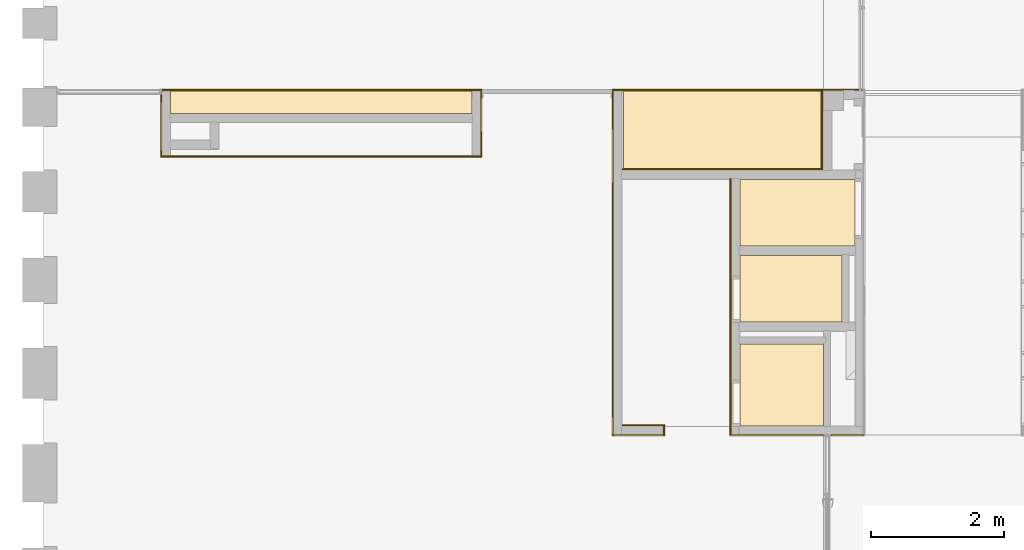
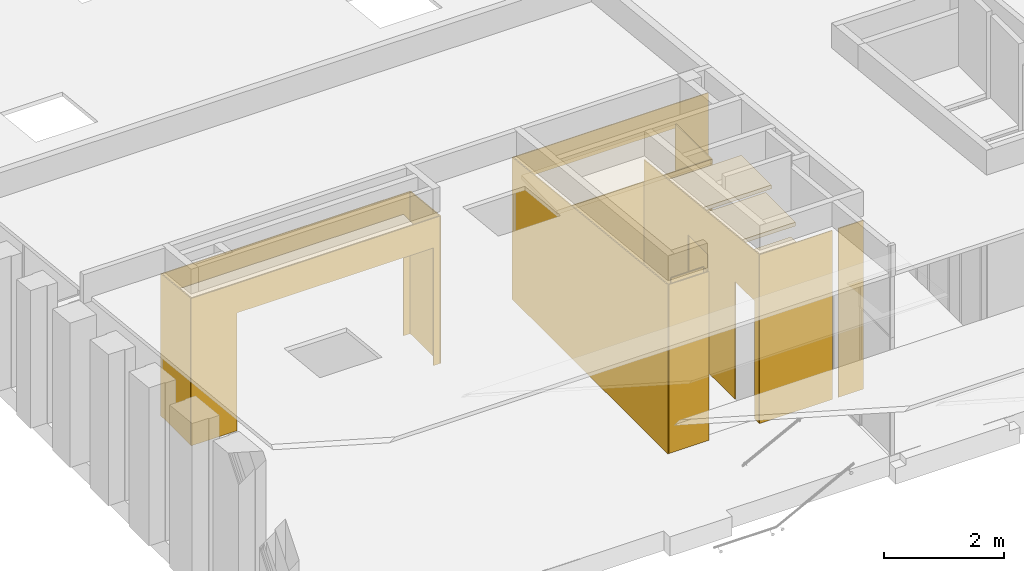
# One storey, part 34 of 43: 19 coverings, 5 openings.
"""IFC2X3 building model written with IfcOpenShell, lengths in millimetres."""

from ifc_helpers import new_model, entity, si_unit, converted_unit, derived_unit, money_unit, direction, frame, origin_with_axes, place, context, subcontext, project, spatial, faceted_brep, material, material_list, type_object, element, save


model = new_model("IFC2X3")

# Units and contexts
model_context = context("Model", 3, precision=0.01, world=origin_with_axes(), true_north=direction((0.0, 1.0)))
body_context = subcontext(model_context, "Body", "Model", "MODEL_VIEW")
ifc_project = project(units=[si_unit("LENGTHUNIT", "METRE", prefix="MILLI"), si_unit("AREAUNIT", "SQUARE_METRE"), si_unit("VOLUMEUNIT", "CUBIC_METRE"), converted_unit("PLANEANGLEUNIT", "DEGREE", entity("IfcPlaneAngleMeasure", 0.0174532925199), si_unit("PLANEANGLEUNIT", "RADIAN"), dimensions=[0, 0, 0, 0, 0, 0, 0]), si_unit("SOLIDANGLEUNIT", "STERADIAN"), money_unit("EUR"), converted_unit("TIMEUNIT", "Year", entity("IfcTimeMeasure", 31556926.0), si_unit("TIMEUNIT", "SECOND"), dimensions=[0, 0, 1, 0, 0, 0, 0]), si_unit("MASSUNIT", "GRAM", prefix="KILO"), si_unit("THERMODYNAMICTEMPERATUREUNIT", "DEGREE_CELSIUS"), si_unit("LUMINOUSINTENSITYUNIT", "LUMEN"), si_unit("ENERGYUNIT", "JOULE", prefix="MEGA"), derived_unit("THERMALCONDUCTANCEUNIT", [(si_unit("POWERUNIT", "WATT"), 1), (si_unit("LENGTHUNIT", "METRE"), -1), (si_unit("THERMODYNAMICTEMPERATUREUNIT", "KELVIN"), -1)]), derived_unit("SPECIFICHEATCAPACITYUNIT", [(si_unit("ENERGYUNIT", "JOULE"), 1), (si_unit("MASSUNIT", "GRAM", prefix="KILO"), -1), (si_unit("THERMODYNAMICTEMPERATUREUNIT", "KELVIN"), -1)]), derived_unit("MASSDENSITYUNIT", [(si_unit("MASSUNIT", "GRAM", prefix="KILO"), 1), (si_unit("VOLUMEUNIT", "CUBIC_METRE"), -1)])], contexts=[model_context])

# Site, building, storey
site_placement = place(None, origin_with_axes())
site = spatial("IfcSite", under=ifc_project, at=site_placement, Name="L.Koidula tn 11b", CompositionType="ELEMENT")
building_placement = place(site_placement, origin_with_axes())
building = spatial("IfcBuilding", under=site, at=building_placement, Name="Rakvere Riigigümnaasium", CompositionType="ELEMENT")
storey_placement = place(building_placement, frame((0.0, 0.0, 6665.0), z_axis=(0.0, 0.0, 1.0), x_axis=(1.0, 0.0, 0.0)))
storey = spatial("IfcBuildingStorey", under=building, at=storey_placement, Name="3.korrus +6,66", CompositionType="ELEMENT", Elevation=6665.0)

# Coverings
ifc_material_1 = material(Name="mineraalvill+karkass")
ifc_material_2 = material(Name="SKR-02_Kipsplaat")
ifc_material_list = material_list([ifc_material_1, ifc_material_2])
covering_type_1 = type_object("IfcCoveringType", Name="SA-LV-kips 79", PredefinedType="CEILING")
covering_1_placement = place(storey_placement, frame((37204.9860125, 24060.4555472, 2400.0), z_axis=(0.0, 0.0, 1.0), x_axis=(1.0, 0.0, 0.0)))
element("IfcCovering", 1, at=covering_1_placement, inside=storey, type_object=covering_type_1, material=ifc_material_list, Name="L-01", PredefinedType="CEILING", context=body_context, shape_type="Brep", body=[
    faceted_brep([(4520.01747682, 0.0, 12.5), (4520.01747682, 0.0, 78.5), (0.0, 0.0, 78.5), (0.0, 0.0, 12.5), (4520.01747682, 340.000000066, 12.5), (4520.01747682, 340.000000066, 78.5), (0.0, 340.000000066, 78.5), (0.0, 340.000000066, 12.5)], [[[0, 1, 2, 3]], [[4, 5, 1, 0]], [[2, 1, 5, 6]], [[3, 2, 6, 7]], [[3, 7, 4, 0]], [[7, 6, 5, 4]]]),
    faceted_brep([(0.0, 0.0, 0.0), (4520.01747682, 0.0, 0.0), (4520.01747682, 0.0, 12.5), (0.0, 0.0, 12.5), (0.0, 340.000000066, 0.0), (4520.01747682, 340.000000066, 0.0), (4520.01747682, 340.000000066, 12.5), (0.0, 340.000000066, 12.5)], [[[0, 1, 2, 3]], [[0, 4, 5, 1]], [[1, 5, 6, 2]], [[3, 2, 6, 7]], [[4, 0, 3, 7]], [[5, 4, 7, 6]]]),
])
covering_2_placement = place(storey_placement, frame((45745.0034893, 23070.4555472, 2400.0), z_axis=(0.0, 0.0, 1.0), x_axis=(1.0, 0.0, 0.0)))
element("IfcCovering", 2, at=covering_2_placement, inside=storey, type_object=covering_type_1, material=ifc_material_list, Name="L-04", PredefinedType="CEILING", context=body_context, shape_type="Brep", body=[
    faceted_brep([(0.0, -1000.00000742, 12.5), (0.0, -1000.00000742, 78.5), (0.0, 0.0, 78.5), (0.0, 0.0, 12.5), (1724.99650622, -1000.00000742, 12.5), (1724.99650622, -1000.00000742, 78.5), (1724.99650622, 0.0, 78.5), (1724.99650622, 0.0, 12.5)], [[[0, 1, 2, 3]], [[4, 5, 1, 0]], [[2, 1, 5, 6]], [[3, 2, 6, 7]], [[3, 7, 4, 0]], [[7, 6, 5, 4]]]),
    faceted_brep([(0.0, 0.0, 0.0), (0.0, -1000.00000742, 0.0), (0.0, -1000.00000742, 12.5), (0.0, 0.0, 12.5), (1724.99650622, 0.0, 0.0), (1724.99650622, -1000.00000742, 0.0), (1724.99650622, -1000.00000742, 12.5), (1724.99650622, 0.0, 12.5)], [[[0, 1, 2, 3]], [[0, 4, 5, 1]], [[1, 5, 6, 2]], [[3, 2, 6, 7]], [[4, 0, 3, 7]], [[5, 4, 7, 6]]]),
])
covering_3_placement = place(storey_placement, frame((45745.0034893, 21930.4555398, 2400.0), z_axis=(0.0, 0.0, 1.0), x_axis=(1.0, 0.0, 0.0)))
element("IfcCovering", 3, at=covering_3_placement, inside=storey, type_object=covering_type_1, material=ifc_material_list, Name="L-04", PredefinedType="CEILING", context=body_context, shape_type="Brep", body=[
    faceted_brep([(0.0, -1000.01583255, 12.5), (0.0, -1000.01583255, 78.5), (0.0, 0.0, 78.5), (0.0, 0.0, 12.5), (1534.49650622, -1000.01583255, 12.5), (1534.49650622, -1000.01583255, 78.5), (1534.49650622, 0.0, 78.5), (1534.49650622, 0.0, 12.5)], [[[0, 1, 2, 3]], [[4, 5, 1, 0]], [[2, 1, 5, 6]], [[3, 2, 6, 7]], [[3, 7, 4, 0]], [[7, 6, 5, 4]]]),
    faceted_brep([(0.0, 0.0, 0.0), (0.0, -1000.01583255, 0.0), (0.0, -1000.01583255, 12.5), (0.0, 0.0, 12.5), (1534.49650622, 0.0, 0.0), (1534.49650622, -1000.01583255, 0.0), (1534.49650622, -1000.01583255, 12.5), (1534.49650622, 0.0, 12.5)], [[[0, 1, 2, 3]], [[0, 4, 5, 1]], [[1, 5, 6, 2]], [[3, 2, 6, 7]], [[4, 0, 3, 7]], [[5, 4, 7, 6]]]),
])
covering_4_placement = place(storey_placement, frame((47000.0013931, 19370.4397072, 2400.0), z_axis=(0.0, 0.0, 1.0), x_axis=(1.0, 0.0, 0.0)))
element("IfcCovering", 4, at=covering_4_placement, inside=storey, type_object=covering_type_1, material=ifc_material_list, Name="L-04", PredefinedType="CEILING", context=body_context, shape_type="Brep", body=[
    faceted_brep([(0.0, 1229.5, 12.5), (0.0, 1229.5, 78.5), (0.0, 0.0, 78.5), (0.0, 0.0, 12.5), (-1254.99790379, 1229.5, 12.5), (-1254.99790379, 1229.5, 78.5), (-1254.99790379, 0.0, 78.5), (-1254.99790379, 0.0, 12.5)], [[[0, 1, 2, 3]], [[4, 5, 1, 0]], [[2, 1, 5, 6]], [[3, 2, 6, 7]], [[3, 7, 4, 0]], [[7, 6, 5, 4]]]),
    faceted_brep([(0.0, 0.0, 0.0), (0.0, 1229.5, 0.0), (0.0, 1229.5, 12.5), (0.0, 0.0, 12.5), (-1254.99790379, 0.0, 0.0), (-1254.99790379, 1229.5, 0.0), (-1254.99790379, 1229.5, 12.5), (-1254.99790379, 0.0, 12.5)], [[[0, 1, 2, 3]], [[0, 4, 5, 1]], [[1, 5, 6, 2]], [[3, 2, 6, 7]], [[4, 0, 3, 7]], [[5, 4, 7, 6]]]),
])

# Covering, opening
ifc_material_3 = material(Name="MDF")
covering_type_2 = type_object("IfcCoveringType", Name="MDF 20", PredefinedType="CLADDING")
covering_5_placement = place(storey_placement, frame((43849.9999965, 24400.4555472, 0.0), z_axis=(0.0, 0.0, 1.0), x_axis=(1.0, 0.0, 0.0)))
covering_5 = element("IfcCovering", 5, at=covering_5_placement, inside=storey, type_object=covering_type_2, material=ifc_material_3, Name="S-05", PredefinedType="CLADDING", context=body_context, shape_type="Brep", body=[
    faceted_brep([(0.0, 20.0, 2895.5567172), (3749.99999907, 20.0, 2895.49979387), (3749.99999907, 20.0, 0.0), (3120.00139664, 20.0, 0.0), (3120.00139664, 20.0, 2400.0), (130.0, 20.0, 2400.0), (130.0, 20.0, 0.0), (0.0, 20.0, 0.0), (3749.9988141, 9.87085968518e-08, 2897.60187856), (-0.00334889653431, -1.94305016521e-07, 2897.65880196), (3749.99999907, 0.0, 0.0), (3120.00139664, 0.0, 0.0), (3120.00139664, 0.0, 2400.0), (130.0, 0.0, 2400.0), (130.0, 0.0, 0.0), (0.0, 0.0, 0.0)], [[[0, 1, 2, 3, 4, 5, 6, 7]], [[8, 1, 0, 9]], [[1, 8, 10, 2]], [[10, 11, 3, 2]], [[12, 4, 3, 11]], [[13, 5, 4, 12]], [[14, 6, 5, 13]], [[7, 6, 14, 15]], [[9, 0, 7, 15]], [[8, 9, 15, 14, 13, 12, 11, 10]]]),
])
opening_1_placement = place(covering_5_placement, frame((1625.00069832, 0.0, 0.0), z_axis=(0.0, 0.0, 1.0), x_axis=(1.0, 0.0, 0.0)))
element("IfcOpeningElement", 6, at=opening_1_placement, cuts=covering_5, Name="ava", context=body_context, shape_type="Brep", body=[
    faceted_brep([(-1495.00069832, -20.0, 0.0), (-1495.00069832, -20.0, 2400.0), (-1495.00069832, 40.0, 2400.0), (-1495.00069832, 40.0, 0.0), (1495.00069832, -20.0, 0.0), (1495.00069832, -20.0, 2400.0), (1495.00069832, 40.0, 2400.0), (1495.00069832, 40.0, 0.0)], [[[0, 1, 2, 3]], [[0, 4, 5, 1]], [[1, 5, 6, 2]], [[3, 2, 6, 7]], [[4, 0, 3, 7]], [[5, 4, 7, 6]]]),
])

covering_6_placement = place(storey_placement, frame((41855.0034893, 23420.4555472, 0.0), z_axis=(0.0, 0.0, 1.0), x_axis=(-1.0, 0.0, 0.0)))
covering_6 = element("IfcCovering", 7, at=covering_6_placement, inside=storey, type_object=covering_type_2, material=ifc_material_3, Name="S-05", PredefinedType="CLADDING", context=body_context, shape_type="Brep", body=[
    faceted_brep([(4800.01747682, 0.0, 3000.76409667), (0.0, 0.0, 3000.69123454), (0.0, 0.0, 0.0), (130.0, 0.0, 0.0), (130.0, 0.0, 2400.0), (3920.01747682, 0.0, 2400.0), (3920.01747682, 0.0, 0.0), (4800.01747682, 0.0, 0.0), (0.0, 20.0, 3002.79331922), (4800.01747682, 20.0, 3002.86618136), (0.0, 20.0, 0.0), (130.0, 20.0, 0.0), (130.0, 20.0, 2400.0), (3920.01747682, 20.0, 2400.0), (3920.01747682, 20.0, 0.0), (4800.01747682, 20.0, 0.0)], [[[0, 1, 2, 3, 4, 5, 6, 7]], [[8, 1, 0, 9]], [[1, 8, 10, 2]], [[10, 11, 3, 2]], [[12, 4, 3, 11]], [[13, 5, 4, 12]], [[14, 6, 5, 13]], [[7, 6, 14, 15]], [[9, 0, 7, 15]], [[8, 9, 15, 14, 13, 12, 11, 10]]]),
])
opening_2_placement = place(covering_6_placement, frame((2025.00873841, 0.0, 0.0), z_axis=(0.0, 0.0, 1.0), x_axis=(1.0, 0.0, 0.0)))
element("IfcOpeningElement", 8, at=opening_2_placement, cuts=covering_6, Name="ava", context=body_context, shape_type="Brep", body=[
    faceted_brep([(-1895.00873841, -20.0, 0.0), (-1895.00873841, -20.0, 2400.0), (-1895.00873841, 40.0, 2400.0), (-1895.00873841, 40.0, 0.0), (1895.00873841, -20.0, 0.0), (1895.00873841, -20.0, 2400.0), (1895.00873841, 40.0, 2400.0), (1895.00873841, 40.0, 0.0)], [[[0, 1, 2, 3]], [[0, 4, 5, 1]], [[1, 5, 6, 2]], [[3, 2, 6, 7]], [[4, 0, 3, 7]], [[5, 4, 7, 6]]]),
])

covering_7_placement = place(storey_placement, frame((37074.9860125, 24400.4555472, 0.0), z_axis=(0.0, 0.0, 1.0), x_axis=(1.0, 0.0, 0.0)))
covering_7 = element("IfcCovering", 9, at=covering_7_placement, inside=storey, type_object=covering_type_2, material=ifc_material_3, Name="S-05", PredefinedType="CLADDING", context=body_context, shape_type="Brep", body=[
    faceted_brep([(0.0, 20.0, 2895.65955891), (4780.01747682, 20.0, 2895.58700036), (4780.01747682, 20.0, 0.0), (4650.01747682, 20.0, 0.0), (4650.01747682, 20.0, 2400.0), (130.0, 20.0, 2400.0), (130.0, 20.0, 0.0), (0.0, 20.0, 0.0), (4780.01747682, 0.0, 2897.68908505), (0.0, 0.0, 2897.76164359), (4780.01747682, 0.0, 0.0), (4650.01747682, 0.0, 0.0), (4650.01747682, 0.0, 2400.0), (130.0, 0.0, 2400.0), (130.0, 0.0, 0.0), (0.0, 0.0, 0.0)], [[[0, 1, 2, 3, 4, 5, 6, 7]], [[8, 1, 0, 9]], [[1, 8, 10, 2]], [[10, 11, 3, 2]], [[12, 4, 3, 11]], [[13, 5, 4, 12]], [[14, 6, 5, 13]], [[7, 6, 14, 15]], [[9, 0, 7, 15]], [[8, 9, 15, 14, 13, 12, 11, 10]]]),
])
opening_3_placement = place(covering_7_placement, frame((2390.00873841, 0.0, 0.0), z_axis=(0.0, 0.0, 1.0), x_axis=(1.0, 0.0, 0.0)))
element("IfcOpeningElement", 10, at=opening_3_placement, cuts=covering_7, Name="ava", context=body_context, shape_type="Brep", body=[
    faceted_brep([(2260.00873841, 40.0, 0.0), (2260.00873841, 40.0, 2400.0), (2260.00873841, -20.0, 2400.0), (2260.00873841, -20.0, 0.0), (-2260.00873841, 40.0, 0.0), (-2260.00873841, 40.0, 2400.0), (-2260.00873841, -20.0, 2400.0), (-2260.00873841, -20.0, 0.0)], [[[0, 1, 2, 3]], [[0, 4, 5, 1]], [[1, 5, 6, 2]], [[3, 2, 6, 7]], [[4, 0, 3, 7]], [[5, 4, 7, 6]]]),
])

# Covering, openings
covering_8_placement = place(storey_placement, frame((45615.0034893, 19240.4397072, 0.0), z_axis=(0.0, 0.0, 1.0), x_axis=(0.0, 1.0, 0.0)))
covering_8 = element("IfcCovering", 11, at=covering_8_placement, inside=storey, type_object=covering_type_2, material=ifc_material_3, Name="S-05", PredefinedType="CLADDING", context=body_context, shape_type="Brep", body=[
    faceted_brep([(3840.01583947, 20.0, 3036.36990266), (3840.01583928, 0.00118550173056, 3036.36959911), (3840.01583998, 0.0, 0.0), (3840.01583998, 20.0, 0.0), (2.37257324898e-07, 0.00118480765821, 3439.97152307), (0.0, 20.0, 3439.97182667), (0.0, 0.0, 0.0), (140.000007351, 0.0, 0.0), (140.000007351, 0.0, 2400.0), (800.000007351, 0.0, 2400.0), (800.000007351, 0.0, 0.0), (1700.00000735, 0.0, 0.0), (1700.00000735, 0.0, 2400.0), (2360.00000735, 0.0, 2400.0), (2360.00000735, 0.0, 0.0), (2360.00000735, 20.0, 0.0), (2360.00000735, 20.0, 2400.0), (1700.00000735, 20.0, 2400.0), (1700.00000735, 20.0, 0.0), (800.000007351, 20.0, 0.0), (800.000007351, 20.0, 2400.0), (140.000007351, 20.0, 2400.0), (140.000007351, 20.0, 0.0), (0.0, 20.0, 0.0)], [[[0, 1, 2, 3]], [[4, 1, 0, 5]], [[1, 4, 6, 7, 8, 9, 10, 11, 12, 13, 14, 2]], [[2, 14, 15, 3]], [[5, 0, 3, 15, 16, 17, 18, 19, 20, 21, 22, 23]], [[4, 5, 23, 6]], [[22, 7, 6, 23]], [[8, 7, 22, 21]], [[9, 8, 21, 20]], [[10, 9, 20, 19]], [[19, 18, 11, 10]], [[17, 12, 11, 18]], [[16, 13, 12, 17]], [[15, 14, 13, 16]]]),
])
opening_4_placement = place(covering_8_placement, frame((470.000007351, 0.0, 0.0), z_axis=(0.0, 0.0, 1.0), x_axis=(1.0, 0.0, 0.0)))
element("IfcOpeningElement", 12, at=opening_4_placement, cuts=covering_8, Name="ava", context=body_context, shape_type="Brep", body=[
    faceted_brep([(-330.0, -20.0, 0.0), (-330.0, -20.0, 2400.0), (-330.0, 40.0, 2400.0), (-330.0, 40.0, 0.0), (330.0, -20.0, 0.0), (330.0, -20.0, 2400.0), (330.0, 40.0, 2400.0), (330.0, 40.0, 0.0)], [[[0, 1, 2, 3]], [[0, 4, 5, 1]], [[1, 5, 6, 2]], [[3, 2, 6, 7]], [[4, 0, 3, 7]], [[5, 4, 7, 6]]]),
])
opening_5_placement = place(covering_8_placement, frame((2030.00000735, 0.0, 0.0), z_axis=(0.0, 0.0, 1.0), x_axis=(1.0, 0.0, 0.0)))
element("IfcOpeningElement", 13, at=opening_5_placement, cuts=covering_8, Name="ava", context=body_context, shape_type="Brep", body=[
    faceted_brep([(-330.0, -20.0, 0.0), (-330.0, -20.0, 2400.0), (-330.0, 40.0, 2400.0), (-330.0, 40.0, 0.0), (330.0, -20.0, 0.0), (330.0, -20.0, 2400.0), (330.0, 40.0, 2400.0), (330.0, 40.0, 0.0)], [[[0, 1, 2, 3]], [[0, 4, 5, 1]], [[1, 5, 6, 2]], [[3, 2, 6, 7]], [[4, 0, 3, 7]], [[5, 4, 7, 6]]]),
])

# Coverings
covering_9_placement = place(storey_placement, frame((43849.9999965, 19240.4397072, 0.0), z_axis=(0.0, 0.0, 1.0), x_axis=(0.0, 1.0, 0.0)))
element("IfcCovering", 14, at=covering_9_placement, inside=storey, type_object=covering_type_2, material=ifc_material_3, Name="S-05", PredefinedType="CLADDING", context=body_context, shape_type="Brep", body=[
    faceted_brep([(5180.01583998, 20.0, 2895.55702079), (5180.01583998, 0.0, 2895.5567172), (5180.01583998, 0.0, 0.0), (5180.01583998, 20.0, 0.0), (5160.01583978, 0.00334889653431, 2897.65880196), (-17.0260834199, 20.0, 3441.7881321), (-17.0289718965, 0.0, 3441.7881321), (-1.01195496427e-07, 0.00118479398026, 3439.99831508), (-20.0, 0.0, 3441.7881321), (-20.0, 0.0, 0.0), (-20.0, 20.0, 0.0), (-20.0, 20.0, 3441.7881321)], [[[0, 1, 2, 3]], [[4, 1, 0, 5, 6, 7]], [[7, 6, 8, 9, 2, 1, 4]], [[2, 9, 10, 3]], [[5, 0, 3, 10, 11]], [[6, 5, 11, 8]], [[8, 11, 10, 9]]]),
])
covering_10_placement = place(storey_placement, frame((44599.9999911, 19240.4397072, 0.0), z_axis=(0.0, 0.0, 1.0), x_axis=(-1.0, 0.0, 0.0)))
element("IfcCovering", 15, at=covering_10_placement, inside=storey, type_object=covering_type_2, material=ifc_material_3, Name="S-05", PredefinedType="CLADDING", context=body_context, shape_type="Brep", body=[
    faceted_brep([(750.00117944, 1.01195496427e-07, 3439.99831508), (0.00118468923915, 1.67332814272e-07, 3439.98693042), (-20.0, 0.0, 3439.98662679), (-20.0, 0.0, 0.0), (749.999994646, 0.0, 0.0), (-20.0, 17.1401782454, 3441.7881321), (749.999994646, 17.0289718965, 3441.7881321), (-20.0, 20.0, 3441.7881321), (-20.0, 20.0, 0.0), (749.999994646, 20.0, 0.0), (749.999994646, 20.0, 3441.7881321)], [[[0, 1, 2, 3, 4]], [[5, 2, 1, 0, 6]], [[2, 5, 7, 8, 3]], [[8, 9, 4, 3]], [[6, 0, 4, 9, 10]], [[5, 6, 10, 7]], [[7, 10, 9, 8]]]),
])
covering_11_placement = place(storey_placement, frame((41855.0034893, 24400.4555472, 0.0), z_axis=(0.0, 0.0, 1.0), x_axis=(0.0, -1.0, 0.0)))
element("IfcCovering", 16, at=covering_11_placement, inside=storey, type_object=covering_type_2, material=ifc_material_3, Name="S-05", PredefinedType="CLADDING", context=body_context, shape_type="Brep", body=[
    faceted_brep([(-20.0, 0.0, 2895.58700036), (-20.0, 20.0, 2895.58669677), (-20.0, 20.0, 0.0), (-20.0, 0.0, 0.0), (1000.00000007, 20.0, 3002.79301563), (1000.00000007, 0.0, 3002.79331922), (1000.00000007, 20.0, 0.0), (1000.00000007, 0.0, 0.0)], [[[0, 1, 2, 3]], [[4, 1, 0, 5]], [[1, 4, 6, 2]], [[2, 6, 7, 3]], [[5, 0, 3, 7]], [[4, 5, 7, 6]]]),
])
covering_12_placement = place(storey_placement, frame((37074.9860125, 23420.4555472, 0.0), z_axis=(0.0, 0.0, 1.0), x_axis=(0.0, 1.0, 0.0)))
element("IfcCovering", 17, at=covering_12_placement, inside=storey, type_object=covering_type_2, material=ifc_material_3, Name="S-05", PredefinedType="CLADDING", context=body_context, shape_type="Brep", body=[
    faceted_brep([(1000.00000007, 20.0, 2895.6598625), (1000.00000007, 0.0, 2895.65955891), (1000.00000007, 0.0, 0.0), (1000.00000007, 20.0, 0.0), (0.0, 0.0, 3000.76379308), (0.0, 20.0, 3000.76409667), (0.0, 0.0, 0.0), (0.0, 20.0, 0.0)], [[[0, 1, 2, 3]], [[4, 1, 0, 5]], [[1, 4, 6, 2]], [[7, 3, 2, 6]], [[5, 0, 3, 7]], [[4, 5, 7, 6]]]),
])
covering_13_placement = place(storey_placement, frame((46990.0013931, 24400.4555472, 0.0), z_axis=(0.0, 0.0, 1.0), x_axis=(0.0, -1.0, 0.0)))
element("IfcCovering", 18, at=covering_13_placement, inside=storey, type_object=covering_type_2, material=ifc_material_3, Name="S-05", PredefinedType="CLADDING", context=body_context, shape_type="Brep", body=[
    faceted_brep([(1190.0, 0.0, 0.0), (1190.0, -20.0, 0.0), (0.0, -20.0, 0.0), (0.0, 0.0, 0.0), (1190.0, 0.0, 2480.0), (1190.0, -20.0, 2480.0), (0.0, -20.0, 2480.0), (0.0, 0.0, 2480.0)], [[[0, 1, 2, 3]], [[1, 0, 4, 5]], [[1, 5, 6, 2]], [[7, 3, 2, 6]], [[4, 0, 3, 7]], [[5, 4, 7, 6]]]),
])
covering_14_placement = place(storey_placement, frame((44599.9999911, 19240.4397072, 0.0), z_axis=(0.0, 0.0, 1.0), x_axis=(0.0, 1.0, 0.0)))
element("IfcCovering", 19, at=covering_14_placement, inside=storey, type_object=covering_type_2, material=ifc_material_3, Name="S-05", PredefinedType="CLADDING", context=body_context, shape_type="Brep", body=[
    faceted_brep([(150.0, 0.0, 0.0), (150.0, -20.0, 0.0), (0.0, -20.0, 0.0), (0.0, 0.0, 0.0), (150.0, 0.0, 3441.7881321), (150.0, -20.0, 3441.7881321), (0.0, -20.0, 3441.7881321), (0.0, 0.0, 3441.7881321)], [[[0, 1, 2, 3]], [[1, 0, 4, 5]], [[1, 5, 6, 2]], [[7, 3, 2, 6]], [[4, 0, 3, 7]], [[5, 4, 7, 6]]]),
])
covering_15_placement = place(storey_placement, frame((47599.9999955, 19240.4397072, 0.0), z_axis=(0.0, 0.0, 1.0), x_axis=(-1.0, 0.0, 0.0)))
element("IfcCovering", 20, at=covering_15_placement, inside=storey, type_object=covering_type_2, material=ifc_material_3, Name="S-05", PredefinedType="CLADDING", context=body_context, shape_type="Brep", body=[
    faceted_brep([(482.500002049, 2.71576539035e-07, 3439.94871588), (0.00118851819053, 4.34980051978e-07, 3439.94139178), (0.0, 0.0, 0.0), (482.500002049, 0.0, 0.0), (0.0, 17.5705612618, 3441.7881321), (482.500002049, 17.5008767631, 3441.7881321), (0.0, 20.0, 3441.7881321), (0.0, 20.0, 0.0), (482.500002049, 20.0, 0.0), (482.500002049, 20.0, 3441.7881321)], [[[0, 1, 2, 3]], [[4, 1, 0, 5]], [[1, 4, 6, 7, 2]], [[2, 7, 8, 3]], [[5, 0, 3, 8, 9]], [[4, 5, 9, 6]], [[7, 6, 9, 8]]]),
])
covering_16_placement = place(storey_placement, frame((46999.9999935, 19240.4397072, 0.0), z_axis=(0.0, 0.0, 1.0), x_axis=(-1.0, 0.0, 0.0)))
element("IfcCovering", 21, at=covering_16_placement, inside=storey, type_object=covering_type_2, material=ifc_material_3, Name="S-05", PredefinedType="CLADDING", context=body_context, shape_type="Brep", body=[
    faceted_brep([(1404.99650417, 0.0, 3439.97182667), (1384.99768898, -2.37257324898e-07, 3439.97152307), (0.0, 2.31786145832e-07, 3439.95049947), (0.0, 0.0, 0.0), (1404.99650417, 0.0, 0.0), (0.0, 17.483906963, 3441.7881321), (1404.99650417, 17.2809919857, 3441.7881321), (0.0, 20.0, 3441.7881321), (0.0, 20.0, 0.0), (1404.99650417, 20.0, 0.0), (1404.99650417, 20.0, 3441.7881321)], [[[0, 1, 2, 3, 4]], [[5, 2, 1, 0, 6]], [[2, 5, 7, 8, 3]], [[8, 9, 4, 3]], [[6, 0, 4, 9, 10]], [[5, 6, 10, 7]], [[7, 10, 9, 8]]]),
])
covering_17_placement = place(storey_placement, frame((46990.0013931, 23210.4555472, 0.0), z_axis=(0.0, 0.0, 1.0), x_axis=(-1.0, 0.0, 0.0)))
element("IfcCovering", 22, at=covering_17_placement, inside=storey, type_object=covering_type_2, material=ifc_material_3, Name="S-05", PredefinedType="CLADDING", context=body_context, shape_type="Brep", body=[
    faceted_brep([(20.0, 0.0, 0.0), (3010.00139664, 0.0, 0.0), (3010.00139664, -20.0, 0.0), (20.0, -20.0, 0.0), (20.0, 0.0, 2480.0), (3010.00139664, 0.0, 2480.0), (3010.00139664, -20.0, 2480.0), (20.0, -20.0, 2480.0)], [[[0, 1, 2, 3]], [[4, 5, 1, 0]], [[2, 1, 5, 6]], [[3, 2, 6, 7]], [[4, 0, 3, 7]], [[7, 6, 5, 4]]]),
])
covering_18_placement = place(storey_placement, frame((44599.9999911, 19370.4397072, 0.0), z_axis=(0.0, 0.0, 1.0), x_axis=(-1.0, 0.0, 0.0)))
element("IfcCovering", 23, at=covering_18_placement, inside=storey, type_object=covering_type_2, material=ifc_material_3, Name="S-05", PredefinedType="CLADDING", context=body_context, shape_type="Brep", body=[
    faceted_brep([(0.0, 0.0, 0.0), (619.999994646, 0.0, 0.0), (619.999994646, -20.0, 0.0), (0.0, -20.0, 0.0), (0.0, 0.0, 3441.7881321), (619.999994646, 0.0, 3441.7881321), (619.999994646, -20.0, 3441.7881321), (0.0, -20.0, 3441.7881321)], [[[0, 1, 2, 3]], [[4, 5, 1, 0]], [[2, 1, 5, 6]], [[3, 2, 6, 7]], [[4, 0, 3, 7]], [[7, 6, 5, 4]]]),
])
ifc_material_4 = material(Name="Salto-siseviimistlus-ripplagi")
covering_type_3 = type_object("IfcCoveringType", Name="SA-ripplagi 80", PredefinedType="CEILING")
covering_19_placement = place(storey_placement, frame((43997.5034893, 23210.4555472, 2400.0), z_axis=(0.0, 0.0, 1.0), x_axis=(1.0, 0.0, 0.0)))
element("IfcCovering", 24, at=covering_19_placement, inside=storey, type_object=covering_type_3, material=ifc_material_4, Name="L-11", PredefinedType="CEILING", context=body_context, shape_type="Brep", body=[
    faceted_brep([(0.0, 0.0, 80.0), (0.0, 0.0, 0.0), (3000.0, 0.0, 0.0), (3000.0, 0.0, 80.0), (0.0, 1190.0, 80.0), (0.0, 1190.0, 0.0), (3000.0, 1190.0, 0.0), (3000.0, 1190.0, 80.0)], [[[0, 1, 2, 3]], [[4, 5, 1, 0]], [[2, 1, 5, 6]], [[3, 2, 6, 7]], [[4, 0, 3, 7]], [[7, 6, 5, 4]]]),
])

save(model, "model.ifc")
